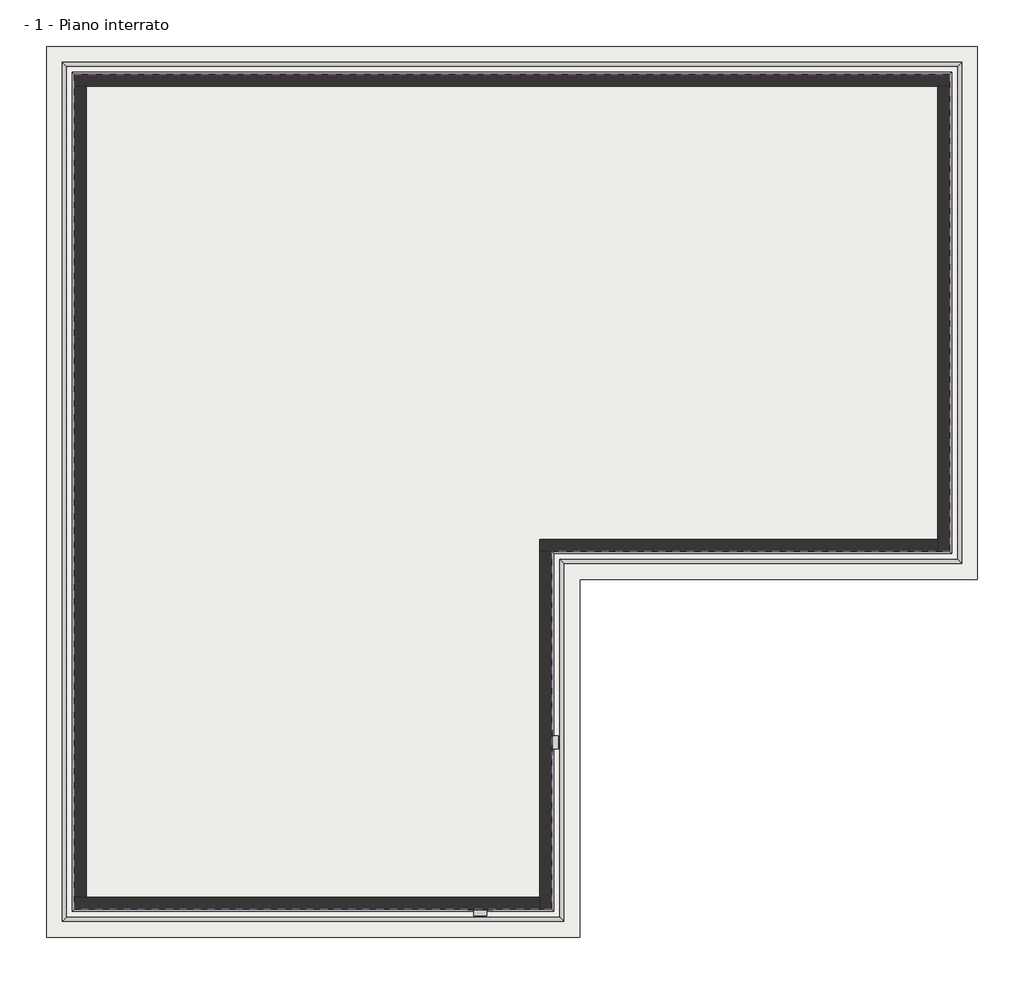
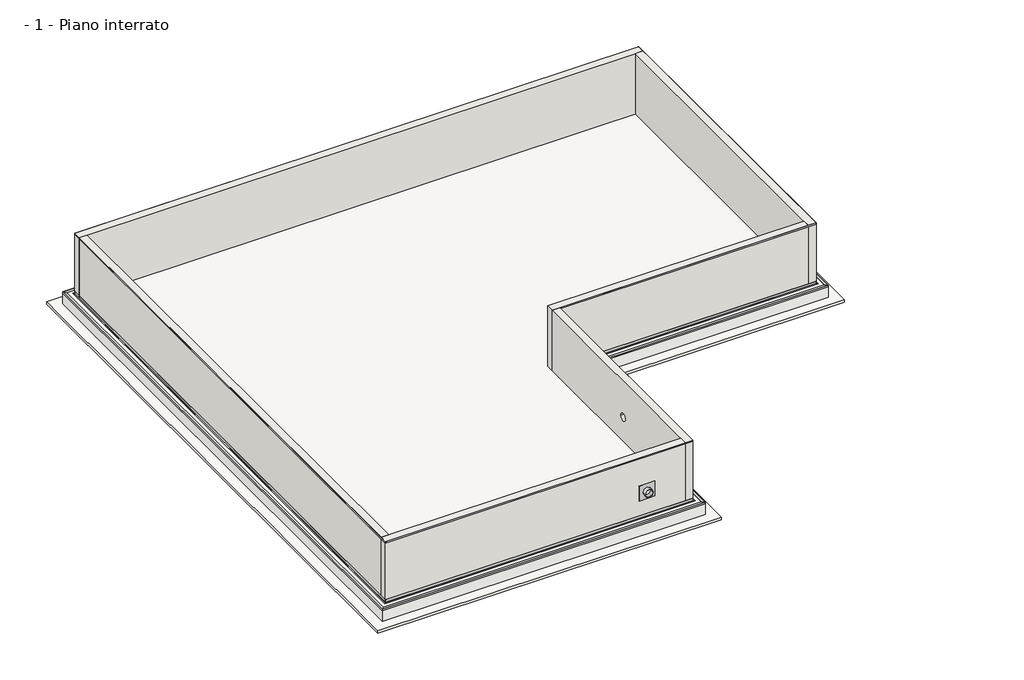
# One storey: 7 proxies, 6 walls, 2 slabs.
"""IFC4 building model written with IfcOpenShell, lengths in millimetres."""

from ifc_helpers import new_model, si_unit, frame, origin, place, context, project, spatial, polyline, circle_curve, outline, extrude, faceted_brep, transform, mapped, element, save
from ifc_brep_helpers import plane_surface, revolved_surface, advanced_brep
from components import generic_models_91e2fdae

model = new_model("IFC4")

# Units and contexts
model_context = context("Model", 3, world=origin())
ifc_project = project(units=[si_unit("LENGTHUNIT", "METRE", prefix="MILLI")], contexts=[model_context])

# Site, building, storey
site = spatial("IfcSite", under=ifc_project)
building = spatial("IfcBuilding", under=site)
storey = spatial("IfcBuildingStorey", under=building, Name="- 1 - Piano interrato", Elevation=-2500.0)

# Proxies
placement = place(None, origin())
element("IfcBuildingElementProxy", 1, Name="AMPHIBIA VOLTECO PRESSURE LINE", ObjectType="AMPHIBIA VOLTECO PRESSURE LINE", at=placement, inside=storey, context=model_context, shape_type="SweptSolid", body=[
    extrude(outline(polyline([(-7818.7815655, -10110.7549823), (-7819.7815655, -10111.7549823), (-7819.7815655, 10890.2450177), (-7818.7815655, 10889.2450177), (-7818.7815655, -10110.7549823)])), frame((0.0, 0.0, -50.0), z_axis=(0.0, 0.0, 1.0), x_axis=(1.0, 0.0, 0.0)), (0.0, 0.0, 1.0), 50.0),
    extrude(outline(polyline([(4181.2184345, -10110.7549823), (4182.2184345, -10111.7549823), (-7819.7815655, -10111.7549823), (-7818.7815655, -10110.7549823), (4181.2184345, -10110.7549823)])), frame((0.0, 0.0, -50.0), z_axis=(0.0, 0.0, 1.0), x_axis=(1.0, 0.0, 0.0)), (0.0, 0.0, 1.0), 50.0),
    extrude(outline(polyline([(4181.2184345, -1110.7549823), (4182.2184345, -1111.7549823), (4182.2184345, -10111.7549823), (4181.2184345, -10110.7549823), (4181.2184345, -1110.7549823)])), frame((0.0, 0.0, -50.0), z_axis=(0.0, 0.0, 1.0), x_axis=(1.0, 0.0, 0.0)), (0.0, 0.0, 1.0), 50.0),
    extrude(outline(polyline([(14181.2184345, -1110.7549823), (14182.2184345, -1111.7549823), (4182.2184345, -1111.7549823), (4181.2184345, -1110.7549823), (14181.2184345, -1110.7549823)])), frame((0.0, 0.0, -50.0), z_axis=(0.0, 0.0, 1.0), x_axis=(1.0, 0.0, 0.0)), (0.0, 0.0, 1.0), 50.0),
    extrude(outline(polyline([(14181.2184345, 10889.2450177), (14182.2184345, 10890.2450177), (14182.2184345, -1111.7549823), (14181.2184345, -1110.7549823), (14181.2184345, 10889.2450177)])), frame((0.0, 0.0, -50.0), z_axis=(0.0, 0.0, 1.0), x_axis=(1.0, 0.0, 0.0)), (0.0, 0.0, 1.0), 50.0),
    extrude(outline(polyline([(-7818.7815655, 10889.2450177), (-7819.7815655, 10890.2450177), (14182.2184345, 10890.2450177), (14181.2184345, 10889.2450177), (-7818.7815655, 10889.2450177)])), frame((0.0, 0.0, -50.0), z_axis=(0.0, 0.0, 1.0), x_axis=(1.0, 0.0, 0.0)), (0.0, 0.0, 1.0), 50.0),
])
element("IfcBuildingElementProxy", 2, Name="AMPHIBIA CORNER 90° VOLTECO", ObjectType="AMPHIBIA CORNER 90° VOLTECO", at=placement, inside=storey, context=model_context, shape_type="Brep", body=[
    faceted_brep([(14482.2184345, 11190.2450177, -2550.0), (14481.2184345, 11189.2450177, -2550.0), (-8118.7815655, 11189.2450177, -2550.0), (-8119.7815655, 11190.2450177, -2550.0), (14482.2184345, 11190.2450177, -2499.0), (-8119.7815655, 11190.2450177, -2499.0), (14381.2184345, 11089.2450177, -2499.0), (-8018.7815655, 11089.2450177, -2499.0), (14381.2184345, 11089.2450177, -2500.0), (-8018.7815655, 11089.2450177, -2500.0), (14481.2184345, 11189.2450177, -2500.0), (-8118.7815655, 11189.2450177, -2500.0), (-8118.7815655, -10410.7549823, -2550.0), (-8119.7815655, -10411.7549823, -2550.0), (-8119.7815655, -10411.7549823, -2499.0), (-8018.7815655, -10310.7549823, -2499.0), (-8018.7815655, -10310.7549823, -2500.0), (-8118.7815655, -10410.7549823, -2500.0), (4481.2184345, -10410.7549823, -2550.0), (4482.2184345, -10411.7549823, -2550.0), (4482.2184345, -10411.7549823, -2499.0), (4381.2184345, -10310.7549823, -2499.0), (4381.2184345, -10310.7549823, -2500.0), (4481.2184345, -10410.7549823, -2500.0), (4481.2184345, -1410.7549823, -2550.0), (4482.2184345, -1411.7549823, -2550.0), (4482.2184345, -1411.7549823, -2499.0), (4381.2184345, -1310.7549823, -2499.0), (4381.2184345, -1310.7549823, -2500.0), (4481.2184345, -1410.7549823, -2500.0), (14481.2184345, -1410.7549823, -2550.0), (14482.2184345, -1411.7549823, -2550.0), (14482.2184345, -1411.7549823, -2499.0), (14381.2184345, -1310.7549823, -2499.0), (14381.2184345, -1310.7549823, -2500.0), (14481.2184345, -1410.7549823, -2500.0)], [[[0, 1, 2, 3]], [[4, 0, 3, 5]], [[6, 4, 5, 7]], [[8, 6, 7, 9]], [[10, 8, 9, 11]], [[1, 10, 11, 2]], [[3, 2, 12, 13]], [[5, 3, 13, 14]], [[7, 5, 14, 15]], [[9, 7, 15, 16]], [[11, 9, 16, 17]], [[2, 11, 17, 12]], [[13, 12, 18, 19]], [[14, 13, 19, 20]], [[15, 14, 20, 21]], [[16, 15, 21, 22]], [[17, 16, 22, 23]], [[12, 17, 23, 18]], [[19, 18, 24, 25]], [[20, 19, 25, 26]], [[21, 20, 26, 27]], [[22, 21, 27, 28]], [[23, 22, 28, 29]], [[18, 23, 29, 24]], [[25, 24, 30, 31]], [[26, 25, 31, 32]], [[27, 26, 32, 33]], [[28, 27, 33, 34]], [[29, 28, 34, 35]], [[24, 29, 35, 30]], [[1, 0, 31, 30]], [[0, 4, 32, 31]], [[4, 6, 33, 32]], [[6, 8, 34, 33]], [[8, 10, 35, 34]], [[10, 1, 30, 35]]]),
])
element("IfcBuildingElementProxy", 3, Name="AKTI-VO 201 VOLTECO", ObjectType="AKTI-VO 201 VOLTECO", at=placement, inside=storey, context=model_context, shape_type="SweptSolid", body=[
    extrude(outline(polyline([(14205.1184345, 10913.1450177), (14206.1184345, 10914.1450177), (14206.1184345, -1135.6549823), (14205.1184345, -1134.6549823), (14205.1184345, 10913.1450177)])), frame((0.0, 0.0, -2500.0), z_axis=(0.0, 0.0, 1.0), x_axis=(1.0, 0.0, 0.0)), (0.0, 0.0, 1.0), 1.0),
    extrude(outline(polyline([(14205.1184345, -1134.6549823), (14206.1184345, -1135.6549823), (4206.1184345, -1135.6549823), (4205.1184345, -1134.6549823), (14205.1184345, -1134.6549823)])), frame((0.0, 0.0, -2500.0), z_axis=(0.0, 0.0, 1.0), x_axis=(1.0, 0.0, 0.0)), (0.0, 0.0, 1.0), 1.0),
    extrude(outline(polyline([(4205.1184345, -1134.6549823), (4206.1184345, -1135.6549823), (4206.1184345, -10135.6549823), (4205.1184345, -10134.6549823), (4205.1184345, -1134.6549823)])), frame((0.0, 0.0, -2500.0), z_axis=(0.0, 0.0, 1.0), x_axis=(1.0, 0.0, 0.0)), (0.0, 0.0, 1.0), 1.0),
    extrude(outline(polyline([(4205.1184345, -10134.6549823), (4206.1184345, -10135.6549823), (-7843.6815655, -10135.6549823), (-7842.6815655, -10134.6549823), (4205.1184345, -10134.6549823)])), frame((0.0, 0.0, -2500.0), z_axis=(0.0, 0.0, 1.0), x_axis=(1.0, 0.0, 0.0)), (0.0, 0.0, 1.0), 1.0),
    extrude(outline(polyline([(-7842.6815655, 10913.1450177), (-7843.6815655, 10914.1450177), (14206.1184345, 10914.1450177), (14205.1184345, 10913.1450177), (-7842.6815655, 10913.1450177)])), frame((0.0, 0.0, -2500.0), z_axis=(0.0, 0.0, 1.0), x_axis=(1.0, 0.0, 0.0)), (0.0, 0.0, 1.0), 1.0),
    extrude(outline(polyline([(-7842.6815655, -10134.6549823), (-7843.6815655, -10135.6549823), (-7843.6815655, 10914.1450177), (-7842.6815655, 10913.1450177), (-7842.6815655, -10134.6549823)])), frame((0.0, 0.0, -2500.0), z_axis=(0.0, 0.0, 1.0), x_axis=(1.0, 0.0, 0.0)), (0.0, 0.0, 1.0), 1.0),
])
element("IfcBuildingElementProxy", 4, Name="AMPHIBIA CORNER 270° VOLTECO", ObjectType="AMPHIBIA CORNER 270° VOLTECO", at=placement, inside=storey, context=model_context, shape_type="Brep", body=[
    faceted_brep([(14232.2184345, 10940.2450177, -2498.0), (14232.2184345, 10940.2450177, -2499.0), (14181.2184345, 10889.2450177, -2499.0), (14181.2184345, 10889.2450177, -2398.0), (14182.2184345, 10890.2450177, -2398.0), (14182.2184345, 10890.2450177, -2498.0), (14232.2184345, -1161.7549823, -2498.0), (14182.2184345, -1111.7549823, -2498.0), (14182.2184345, -1111.7549823, -2398.0), (14181.2184345, -1110.7549823, -2398.0), (14181.2184345, -1110.7549823, -2499.0), (14232.2184345, -1161.7549823, -2499.0)], [[[0, 1, 2, 3, 4, 5]], [[6, 7, 8, 9, 10, 11]], [[1, 0, 6, 11]], [[2, 1, 11, 10]], [[3, 2, 10, 9]], [[4, 3, 9, 8]], [[5, 4, 8, 7]], [[0, 5, 7, 6]]]),
    faceted_brep([(-7869.7815655, 10940.2450177, -2498.0), (-7869.7815655, 10940.2450177, -2499.0), (-7818.7815655, 10889.2450177, -2499.0), (-7818.7815655, 10889.2450177, -2398.0), (-7819.7815655, 10890.2450177, -2398.0), (-7819.7815655, 10890.2450177, -2498.0), (14232.2184345, 10940.2450177, -2498.0), (14182.2184345, 10890.2450177, -2498.0), (14182.2184345, 10890.2450177, -2398.0), (14181.2184345, 10889.2450177, -2398.0), (14181.2184345, 10889.2450177, -2499.0), (14232.2184345, 10940.2450177, -2499.0)], [[[0, 1, 2, 3, 4, 5]], [[6, 7, 8, 9, 10, 11]], [[1, 0, 6, 11]], [[2, 1, 11, 10]], [[3, 2, 10, 9]], [[4, 3, 9, 8]], [[5, 4, 8, 7]], [[0, 5, 7, 6]]]),
    faceted_brep([(-7869.7815655, -10161.7549823, -2498.0), (-7869.7815655, -10161.7549823, -2499.0), (-7818.7815655, -10110.7549823, -2499.0), (-7818.7815655, -10110.7549823, -2398.0), (-7819.7815655, -10111.7549823, -2398.0), (-7819.7815655, -10111.7549823, -2498.0), (-7869.7815655, 10940.2450177, -2498.0), (-7819.7815655, 10890.2450177, -2498.0), (-7819.7815655, 10890.2450177, -2398.0), (-7818.7815655, 10889.2450177, -2398.0), (-7818.7815655, 10889.2450177, -2499.0), (-7869.7815655, 10940.2450177, -2499.0)], [[[0, 1, 2, 3, 4, 5]], [[6, 7, 8, 9, 10, 11]], [[1, 0, 6, 11]], [[2, 1, 11, 10]], [[3, 2, 10, 9]], [[4, 3, 9, 8]], [[5, 4, 8, 7]], [[0, 5, 7, 6]]]),
    faceted_brep([(4232.2184345, -10161.7549823, -2498.0), (4232.2184345, -10161.7549823, -2499.0), (4181.2184345, -10110.7549823, -2499.0), (4181.2184345, -10110.7549823, -2398.0), (4182.2184345, -10111.7549823, -2398.0), (4182.2184345, -10111.7549823, -2498.0), (-7869.7815655, -10161.7549823, -2498.0), (-7819.7815655, -10111.7549823, -2498.0), (-7819.7815655, -10111.7549823, -2398.0), (-7818.7815655, -10110.7549823, -2398.0), (-7818.7815655, -10110.7549823, -2499.0), (-7869.7815655, -10161.7549823, -2499.0)], [[[0, 1, 2, 3, 4, 5]], [[6, 7, 8, 9, 10, 11]], [[1, 0, 6, 11]], [[2, 1, 11, 10]], [[3, 2, 10, 9]], [[4, 3, 9, 8]], [[5, 4, 8, 7]], [[0, 5, 7, 6]]]),
    faceted_brep([(4232.2184345, -1161.7549823, -2498.0), (4232.2184345, -1161.7549823, -2499.0), (4181.2184345, -1110.7549823, -2499.0), (4181.2184345, -1110.7549823, -2398.0), (4182.2184345, -1111.7549823, -2398.0), (4182.2184345, -1111.7549823, -2498.0), (4232.2184345, -10161.7549823, -2498.0), (4182.2184345, -10111.7549823, -2498.0), (4182.2184345, -10111.7549823, -2398.0), (4181.2184345, -10110.7549823, -2398.0), (4181.2184345, -10110.7549823, -2499.0), (4232.2184345, -10161.7549823, -2499.0)], [[[0, 1, 2, 3, 4, 5]], [[6, 7, 8, 9, 10, 11]], [[1, 0, 6, 11]], [[2, 1, 11, 10]], [[3, 2, 10, 9]], [[4, 3, 9, 8]], [[5, 4, 8, 7]], [[0, 5, 7, 6]]]),
    faceted_brep([(14232.2184345, -1161.7549823, -2498.0), (14232.2184345, -1161.7549823, -2499.0), (14181.2184345, -1110.7549823, -2499.0), (14181.2184345, -1110.7549823, -2398.0), (14182.2184345, -1111.7549823, -2398.0), (14182.2184345, -1111.7549823, -2498.0), (4232.2184345, -1161.7549823, -2498.0), (4182.2184345, -1111.7549823, -2498.0), (4182.2184345, -1111.7549823, -2398.0), (4181.2184345, -1110.7549823, -2398.0), (4181.2184345, -1110.7549823, -2499.0), (4232.2184345, -1161.7549823, -2499.0)], [[[0, 1, 2, 3, 4, 5]], [[6, 7, 8, 9, 10, 11]], [[1, 0, 6, 11]], [[2, 1, 11, 10]], [[3, 2, 10, 9]], [[4, 3, 9, 8]], [[5, 4, 8, 7]], [[0, 5, 7, 6]]]),
])
element("IfcBuildingElementProxy", 5, Name="WT CONSTRUCTION VOLTECO", ObjectType="WT CONSTRUCTION VOLTECO", at=placement, inside=storey, context=model_context, shape_type="SweptSolid", body=[
    extrude(outline(polyline([(14018.7184345, 10726.7450177), (14043.7184345, 10751.7450177), (14043.7184345, -973.2549823), (14018.7184345, -948.2549823), (14018.7184345, 10726.7450177)])), frame((0.0, 0.0, -2500.0), z_axis=(0.0, 0.0, 1.0), x_axis=(1.0, 0.0, 0.0)), (0.0, 0.0, 1.0), 15.0),
    extrude(outline(polyline([(14018.7184345, -948.2549823), (14043.7184345, -973.2549823), (4043.7184345, -973.2549823), (4018.7184345, -948.2549823), (14018.7184345, -948.2549823)])), frame((0.0, 0.0, -2500.0), z_axis=(0.0, 0.0, 1.0), x_axis=(1.0, 0.0, 0.0)), (0.0, 0.0, 1.0), 15.0),
    extrude(outline(polyline([(4018.7184345, -948.2549823), (4043.7184345, -973.2549823), (4043.7184345, -9973.2549823), (4018.7184345, -9948.2549823), (4018.7184345, -948.2549823)])), frame((0.0, 0.0, -2500.0), z_axis=(0.0, 0.0, 1.0), x_axis=(1.0, 0.0, 0.0)), (0.0, 0.0, 1.0), 15.0),
    extrude(outline(polyline([(4018.7184345, -9948.2549823), (4043.7184345, -9973.2549823), (-7681.2815655, -9973.2549823), (-7656.2815655, -9948.2549823), (4018.7184345, -9948.2549823)])), frame((0.0, 0.0, -2500.0), z_axis=(0.0, 0.0, 1.0), x_axis=(1.0, 0.0, 0.0)), (0.0, 0.0, 1.0), 15.0),
    extrude(outline(polyline([(-7656.2815655, -9948.2549823), (-7681.2815655, -9973.2549823), (-7681.2815655, 10751.7450177), (-7656.2815655, 10726.7450177), (-7656.2815655, -9948.2549823)])), frame((0.0, 0.0, -2500.0), z_axis=(0.0, 0.0, 1.0), x_axis=(1.0, 0.0, 0.0)), (0.0, 0.0, 1.0), 15.0),
    extrude(outline(polyline([(-7656.2815655, 10726.7450177), (-7681.2815655, 10751.7450177), (14043.7184345, 10751.7450177), (14018.7184345, 10726.7450177), (-7656.2815655, 10726.7450177)])), frame((0.0, 0.0, -2500.0), z_axis=(0.0, 0.0, 1.0), x_axis=(1.0, 0.0, 0.0)), (0.0, 0.0, 1.0), 15.0),
])
generic_models_shape = generic_models_91e2fdae(model_context)
element("IfcBuildingElementProxy", 6, Name="ITA-VOLTECO Amphibia Tubo : ITA-VOLTECO Amphibia Tubo", ObjectType="ITA-VOLTECO Amphibia Tubo : ITA-VOLTECO Amphibia Tubo", at=placement, inside=storey, context=model_context, shape_type="MappedRepresentation", body=[
    mapped(generic_models_shape, transform((4181.2184345, -5910.7549823, -1500.3520841), x_axis=(0.0, 1.0, 0.0), y_axis=(0.0, 0.0, 1.0), z_axis=(1.0, 0.0, 0.0))),
])
element("IfcBuildingElementProxy", 7, Name="ITA-VOLTECO Amphibia Tubo : ITA-VOLTECO Amphibia Tubo", ObjectType="ITA-VOLTECO Amphibia Tubo : ITA-VOLTECO Amphibia Tubo", at=placement, inside=storey, context=model_context, shape_type="MappedRepresentation", body=[
    mapped(generic_models_shape, transform((2381.2184345, -10110.7549823, -1471.2981482), x_axis=(1.0, 0.0, 0.0), y_axis=(0.0, 0.0, 1.0), z_axis=(0.0, -1.0, 0.0))),
])

# Slabs
element("IfcSlab", 8, ObjectType="Magrone - 10 cm", at=placement, inside=storey, context=model_context, shape_type="SweptSolid", body=[
    extrude(outline(polyline([(14881.2184345, 11589.2450177), (14881.2184345, -1810.7549823), (4881.2184345, -1810.7549823), (4881.2184345, -10810.7549823), (-8518.7815655, -10810.7549823), (-8518.7815655, 11589.2450177), (14881.2184345, 11589.2450177)])), frame((0.0, 0.0, -3100.0), z_axis=(0.0, 0.0, 1.0), x_axis=(1.0, 0.0, 0.0)), (0.0, 0.0, 1.0), 100.0),
])
element("IfcSlab", 9, ObjectType="Platea - 50 cm", at=placement, inside=storey, context=model_context, shape_type="Brep", body=[
    faceted_brep([(14481.2184345, 11189.2450177, -3000.0), (14481.2184345, -1410.7549823, -3000.0), (4481.2184345, -1410.7549823, -3000.0), (4481.2184345, -10410.7549823, -3000.0), (-8118.7815655, -10410.7549823, -3000.0), (-8118.7815655, 11189.2450177, -3000.0), (14481.2184345, 11189.2450177, -2500.0), (-8118.7815655, 11189.2450177, -2500.0), (-8118.7815655, -10410.7549823, -2500.0), (4481.2184345, -10410.7549823, -2500.0), (4481.2184345, -1410.7549823, -2500.0), (14481.2184345, -1410.7549823, -2500.0), (14481.2184345, 11189.2450177, -2550.0), (14481.2184345, -1410.7549823, -2550.0), (4481.2184345, -1410.7549823, -2550.0), (4481.2184345, -10410.7549823, -2550.0), (-8118.7815655, -10410.7549823, -2550.0), (-8118.7815655, 11189.2450177, -2550.0)], [[[0, 1, 2, 3, 4, 5]], [[6, 7, 8, 9, 10, 11]], [[1, 0, 12, 6, 11, 13]], [[2, 1, 13, 11, 10, 14]], [[3, 2, 14, 10, 9, 15]], [[4, 3, 15, 9, 8, 16]], [[5, 4, 16, 8, 7, 17]], [[0, 5, 17, 7, 6, 12]]]),
])

# Walls
element("IfcWall", 10, ObjectType="Fondazione - 30 cm", at=placement, inside=storey, context=model_context, shape_type="Brep", body=[
    faceted_brep([(14181.2184345, 10589.2450177, 0.0), (13881.2184345, 10589.2450177, 0.0), (-7518.7815655, 10589.2450177, 0.0), (-7818.7815655, 10589.2450177, 0.0), (-7818.7815655, 10589.2450177, -50.0), (-7818.7815655, 10589.2450177, -2398.0), (-7818.7815655, 10589.2450177, -2499.0), (-7818.7815655, 10589.2450177, -2500.0), (-7681.2815655, 10589.2450177, -2500.0), (-7681.2815655, 10589.2450177, -2485.0), (-7656.2815655, 10589.2450177, -2485.0), (-7656.2815655, 10589.2450177, -2500.0), (-7518.7815655, 10589.2450177, -2500.0), (13881.2184345, 10589.2450177, -2500.0), (14018.7184345, 10589.2450177, -2500.0), (14018.7184345, 10589.2450177, -2485.0), (14043.7184345, 10589.2450177, -2485.0), (14043.7184345, 10589.2450177, -2500.0), (14181.2184345, 10589.2450177, -2500.0), (14181.2184345, 10589.2450177, -2499.0), (14181.2184345, 10589.2450177, -2398.0), (14181.2184345, 10589.2450177, -50.0), (-7818.7815655, 10889.2450177, 0.0), (14181.2184345, 10889.2450177, 0.0), (14181.2184345, 10889.2450177, -50.0), (14181.2184345, 10889.2450177, -2398.0), (14181.2184345, 10889.2450177, -2499.0), (14181.2184345, 10889.2450177, -2500.0), (-7818.7815655, 10889.2450177, -2500.0), (-7818.7815655, 10889.2450177, -2499.0), (-7818.7815655, 10889.2450177, -2398.0), (-7818.7815655, 10889.2450177, -50.0), (14043.7184345, 10751.7450177, -2500.0), (-7681.2815655, 10751.7450177, -2500.0), (-7656.2815655, 10726.7450177, -2500.0), (14018.7184345, 10726.7450177, -2500.0), (-7681.2815655, 10751.7450177, -2485.0), (14043.7184345, 10751.7450177, -2485.0), (-7656.2815655, 10726.7450177, -2485.0), (14018.7184345, 10726.7450177, -2485.0)], [[[0, 1, 2, 3, 4, 5, 6, 7, 8, 9, 10, 11, 12, 13, 14, 15, 16, 17, 18, 19, 20, 21]], [[22, 23, 24, 25, 26, 27, 28, 29, 30, 31]], [[3, 2, 1, 0, 23, 22]], [[23, 0, 21, 20, 19, 18, 27, 26, 25, 24]], [[3, 22, 31, 30, 29, 28, 7, 6, 5, 4]], [[7, 28, 27, 18, 17, 32, 33, 8]], [[14, 13, 12, 11, 34, 35]], [[33, 36, 9, 8]], [[37, 36, 33, 32]], [[37, 32, 17, 16]], [[38, 34, 11, 10]], [[39, 38, 10, 9, 36, 37, 16, 15]], [[34, 38, 39, 35]], [[35, 39, 15, 14]]]),
])
element("IfcWall", 11, ObjectType="Fondazione - 30 cm", at=placement, inside=storey, context=model_context, shape_type="Brep", body=[
    faceted_brep([(13881.2184345, -1110.7549823, 0.0), (13881.2184345, -810.7549823, 0.0), (13881.2184345, 10589.2450177, 0.0), (13881.2184345, 10589.2450177, -2500.0), (13881.2184345, -810.7549823, -2500.0), (13881.2184345, -948.2549823, -2500.0), (13881.2184345, -948.2549823, -2485.0), (13881.2184345, -973.2549823, -2485.0), (13881.2184345, -973.2549823, -2500.0), (13881.2184345, -1110.7549823, -2500.0), (13881.2184345, -1110.7549823, -2499.0), (13881.2184345, -1110.7549823, -2398.0), (13881.2184345, -1110.7549823, -50.0), (14181.2184345, 10589.2450177, 0.0), (14181.2184345, -1110.7549823, 0.0), (14181.2184345, -1110.7549823, -50.0), (14181.2184345, -1110.7549823, -2398.0), (14181.2184345, -1110.7549823, -2499.0), (14181.2184345, -1110.7549823, -2500.0), (14181.2184345, 10589.2450177, -2500.0), (14181.2184345, 10589.2450177, -2499.0), (14181.2184345, 10589.2450177, -2398.0), (14181.2184345, 10589.2450177, -50.0), (14043.7184345, 10589.2450177, -2500.0), (14043.7184345, 10589.2450177, -2485.0), (14018.7184345, 10589.2450177, -2485.0), (14018.7184345, 10589.2450177, -2500.0), (14043.7184345, -973.2549823, -2500.0), (14018.7184345, -948.2549823, -2500.0), (14043.7184345, -973.2549823, -2485.0), (14018.7184345, -948.2549823, -2485.0)], [[[0, 1, 2, 3, 4, 5, 6, 7, 8, 9, 10, 11, 12]], [[13, 14, 15, 16, 17, 18, 19, 20, 21, 22]], [[2, 1, 0, 14, 13]], [[3, 2, 13, 22, 21, 20, 19, 23, 24, 25, 26]], [[14, 0, 12, 11, 10, 9, 18, 17, 16, 15]], [[19, 18, 9, 8, 27, 23]], [[5, 4, 3, 26, 28]], [[27, 29, 24, 23]], [[29, 27, 8, 7]], [[24, 29, 7, 6, 30, 25]], [[30, 28, 26, 25]], [[28, 30, 6, 5]]]),
])
element("IfcWall", 12, ObjectType="Fondazione - 30 cm", at=placement, inside=storey, context=model_context, shape_type="Brep", body=[
    faceted_brep([(3881.2184345, -810.7549823, 0.0), (13881.2184345, -810.7549823, 0.0), (13881.2184345, -810.7549823, -2500.0), (3881.2184345, -810.7549823, -2500.0), (3881.2184345, -1110.7549823, 0.0), (3881.2184345, -1110.7549823, -2500.0), (4018.7184345, -1110.7549823, -2500.0), (4018.7184345, -1110.7549823, -2485.0), (4043.7184345, -1110.7549823, -2485.0), (4043.7184345, -1110.7549823, -2500.0), (4181.2184345, -1110.7549823, -2500.0), (13881.2184345, -1110.7549823, -2500.0), (13881.2184345, -1110.7549823, -2499.0), (13881.2184345, -1110.7549823, -2398.0), (13881.2184345, -1110.7549823, -50.0), (13881.2184345, -1110.7549823, 0.0), (4181.2184345, -1110.7549823, 0.0), (13881.2184345, -973.2549823, -2500.0), (13881.2184345, -973.2549823, -2485.0), (13881.2184345, -948.2549823, -2485.0), (13881.2184345, -948.2549823, -2500.0), (4018.7184345, -948.2549823, -2500.0), (4043.7184345, -973.2549823, -2500.0), (4043.7184345, -973.2549823, -2485.0), (4018.7184345, -948.2549823, -2485.0)], [[[0, 1, 2, 3]], [[4, 5, 6, 7, 8, 9, 10, 11, 12, 13, 14, 15, 16]], [[1, 0, 4, 16, 15]], [[2, 1, 15, 14, 13, 12, 11, 17, 18, 19, 20]], [[0, 3, 5, 4]], [[3, 2, 20, 21, 6, 5]], [[11, 10, 9, 22, 17]], [[22, 23, 18, 17]], [[23, 22, 9, 8]], [[18, 23, 8, 7, 24, 19]], [[24, 21, 20, 19]], [[21, 24, 7, 6]]]),
])
element("IfcWall", 13, ObjectType="Fondazione - 30 cm", at=placement, inside=storey, context=model_context, shape_type="AdvancedBrep", body=[
    advanced_brep(
    [(3881.2184345, -10110.7549823, 0.0), (3881.2184345, -9810.7549823, 0.0), (3881.2184345, -1110.7549823, 0.0), (3881.2184345, -1110.7549823, -2500.0), (3881.2184345, -9810.7549823, -2500.0), (3881.2184345, -9948.2549823, -2500.0), (3881.2184345, -9948.2549823, -2485.0), (3881.2184345, -9973.2549823, -2485.0), (3881.2184345, -9973.2549823, -2500.0), (3881.2184345, -10110.7549823, -2500.0), (3881.2184345, -10110.7549823, -2499.0), (3881.2184345, -10110.7549823, -2398.0), (3881.2184345, -10110.7549823, -50.0), (3881.2184345, -6060.7549823, -1500.3520841), (3881.2184345, -5760.7549823, -1500.3520841), (4181.2184345, -1110.7549823, 0.0), (4181.2184345, -10110.7549823, 0.0), (4181.2184345, -10110.7549823, -50.0), (4181.2184345, -10110.7549823, -2398.0), (4181.2184345, -10110.7549823, -2499.0), (4181.2184345, -10110.7549823, -2500.0), (4181.2184345, -1110.7549823, -2500.0), (4181.2184345, -1110.7549823, -2499.0), (4181.2184345, -1110.7549823, -2398.0), (4181.2184345, -1110.7549823, -50.0), (4181.2184345, -5760.7549823, -1500.3520841), (4181.2184345, -6060.7549823, -1500.3520841), (4043.7184345, -1110.7549823, -2500.0), (4043.7184345, -1110.7549823, -2485.0), (4018.7184345, -1110.7549823, -2485.0), (4018.7184345, -1110.7549823, -2500.0), (4043.7184345, -9973.2549823, -2500.0), (4018.7184345, -9948.2549823, -2500.0), (4043.7184345, -9973.2549823, -2485.0), (4018.7184345, -9948.2549823, -2485.0)],
    [
        (0, 1),
        (1, 2),
        (2, 3),
        (3, 4),
        (4, 5),
        (5, 6),
        (6, 7),
        (7, 8),
        (8, 9),
        (9, 10),
        (10, 11),
        (11, 12),
        (12, 0),
        (13, 14, circle_curve(frame((3881.2184345, -5910.7549823, -1500.3520841), z_axis=(1.0, 0.0, 0.0), x_axis=(0.0, 1.0, 0.0)), 150.0)),
        (14, 13, circle_curve(frame((3881.2184345, -5910.7549823, -1500.3520841), z_axis=(1.0, 0.0, 0.0), x_axis=(0.0, 1.0, 0.0)), 150.0)),
        (15, 16),
        (16, 17),
        (17, 18),
        (18, 19),
        (19, 20),
        (20, 21),
        (21, 22),
        (22, 23),
        (23, 24),
        (24, 15),
        (25, 26, circle_curve(frame((4181.2184345, -5910.7549823, -1500.3520841), z_axis=(-1.0, 0.0, 0.0), x_axis=(0.0, 1.0, 0.0)), 150.0)),
        (26, 25, circle_curve(frame((4181.2184345, -5910.7549823, -1500.3520841), z_axis=(-1.0, 0.0, 0.0), x_axis=(0.0, 1.0, 0.0)), 150.0)),
        (0, 16),
        (15, 2),
        (21, 27),
        (27, 28),
        (28, 29),
        (29, 30),
        (30, 3),
        (9, 20),
        (8, 31),
        (31, 27),
        (30, 32),
        (32, 5),
        (13, 26),
        (25, 14),
        (31, 33),
        (33, 28),
        (7, 33),
        (6, 34),
        (34, 29),
        (34, 32),
    ],
    [
        plane_surface(frame((3881.2184345, -1110.7549823, -2500.0), z_axis=(-1.0, 0.0, 0.0), x_axis=(0.0, -1.0, 0.0))),
        plane_surface(frame((4181.2184345, -1110.7549823, -2500.0), z_axis=(1.0, 0.0, 0.0), x_axis=(0.0, 1.0, 0.0))),
        plane_surface(frame((3881.2184345, -9960.7549823, 0.0), z_axis=(0.0, 0.0, 1.0), x_axis=(1.0, 0.0, 0.0))),
        plane_surface(frame((14181.2184345, -1110.7549823, -2500.0), z_axis=(0.0, 1.0, 0.0), x_axis=(1.0, 0.0, 0.0))),
        plane_surface(frame((4181.2184345, -10110.7549823, -2500.0), z_axis=(0.0, -1.0, 0.0), x_axis=(1.0, 0.0, 0.0))),
        plane_surface(frame((14481.2184345, 10889.2450177, -2500.0), z_axis=(0.0, 0.0, -1.0), x_axis=(0.0, 1.0, 0.0))),
        revolved_surface(polyline([(4181.2184345, -5760.7549823, -1500.3520841), (3881.2184345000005, -5760.7549823, -1500.3520841)]), (1588.8547464, -5910.7549823, -1500.3520841), (1.0, 0.0, 0.0)),
        plane_surface(frame((4043.7184345, -973.2549823, -2485.0), z_axis=(-1.0, 0.0, 0.0), x_axis=(0.0, -1.0, 0.0))),
        plane_surface(frame((4043.7184345, -9973.2549823, -2485.0), z_axis=(0.0, 1.0, 0.0), x_axis=(-1.0, 0.0, 0.0))),
        plane_surface(frame((13881.2184345, -948.2549823, -2485.0), z_axis=(0.0, 0.0, -1.0), x_axis=(-1.0, 0.0, 0.0))),
        plane_surface(frame((4018.7184345, -948.2549823, -2500.0), z_axis=(1.0, 0.0, 0.0), x_axis=(0.0, -1.0, 0.0))),
        plane_surface(frame((4018.7184345, -9948.2549823, -2500.0), z_axis=(0.0, -1.0, 0.0), x_axis=(-1.0, 0.0, 0.0))),
    ],
    [
        (0, [[1, 2, 3, 4, 5, 6, 7, 8, 9, 10, 11, 12, 13], [14, 15]]),
        (1, [[16, 17, 18, 19, 20, 21, 22, 23, 24, 25], [26, 27]]),
        (2, [[-2, -1, 28, -16, 29]]),
        (3, [[-3, -29, -25, -24, -23, -22, 30, 31, 32, 33, 34]]),
        (4, [[-28, -13, -12, -11, -10, 35, -20, -19, -18, -17]]),
        (5, [[-21, -35, -9, 36, 37, -30]]),
        (5, [[-5, -4, -34, 38, 39]]),
        (6, [[40, -26, 41, -14]]),
        (6, [[-40, -15, -41, -27]]),
        (7, [[42, 43, -31, -37]]),
        (8, [[-42, -36, -8, 44]]),
        (9, [[-43, -44, -7, 45, 46, -32]]),
        (10, [[47, -38, -33, -46]]),
        (11, [[-47, -45, -6, -39]]),
    ],
),
])
element("IfcWall", 14, ObjectType="Fondazione - 30 cm", at=placement, inside=storey, context=model_context, shape_type="AdvancedBrep", body=[
    advanced_brep(
    [(-7818.7815655, -9810.7549823, 0.0), (-7518.7815655, -9810.7549823, 0.0), (3881.2184345, -9810.7549823, 0.0), (3881.2184345, -9810.7549823, -2500.0), (-7518.7815655, -9810.7549823, -2500.0), (-7656.2815655, -9810.7549823, -2500.0), (-7656.2815655, -9810.7549823, -2485.0), (-7681.2815655, -9810.7549823, -2485.0), (-7681.2815655, -9810.7549823, -2500.0), (-7818.7815655, -9810.7549823, -2500.0), (-7818.7815655, -9810.7549823, -2499.0), (-7818.7815655, -9810.7549823, -2398.0), (-7818.7815655, -9810.7549823, -50.0), (2231.2184345, -9810.7549823, -1471.2981482), (2531.2184345, -9810.7549823, -1471.2981482), (3881.2184345, -10110.7549823, 0.0), (-7818.7815655, -10110.7549823, 0.0), (-7818.7815655, -10110.7549823, -50.0), (-7818.7815655, -10110.7549823, -2398.0), (-7818.7815655, -10110.7549823, -2499.0), (-7818.7815655, -10110.7549823, -2500.0), (3881.2184345, -10110.7549823, -2500.0), (3881.2184345, -10110.7549823, -2499.0), (3881.2184345, -10110.7549823, -2398.0), (3881.2184345, -10110.7549823, -50.0), (2531.2184345, -10110.7549823, -1471.2981482), (2231.2184345, -10110.7549823, -1471.2981482), (3881.2184345, -9973.2549823, -2500.0), (3881.2184345, -9973.2549823, -2485.0), (3881.2184345, -9948.2549823, -2485.0), (3881.2184345, -9948.2549823, -2500.0), (-7681.2815655, -9973.2549823, -2500.0), (-7656.2815655, -9948.2549823, -2500.0), (-7681.2815655, -9973.2549823, -2485.0), (-7656.2815655, -9948.2549823, -2485.0)],
    [
        (0, 1),
        (1, 2),
        (2, 3),
        (3, 4),
        (4, 5),
        (5, 6),
        (6, 7),
        (7, 8),
        (8, 9),
        (9, 10),
        (10, 11),
        (11, 12),
        (12, 0),
        (13, 14, circle_curve(frame((2381.2184345, -9810.7549823, -1471.2981482), z_axis=(0.0, -1.0, 0.0), x_axis=(1.0, 0.0, 0.0)), 150.0)),
        (14, 13, circle_curve(frame((2381.2184345, -9810.7549823, -1471.2981482), z_axis=(0.0, -1.0, 0.0), x_axis=(1.0, 0.0, 0.0)), 150.0)),
        (15, 16),
        (16, 17),
        (17, 18),
        (18, 19),
        (19, 20),
        (20, 21),
        (21, 22),
        (22, 23),
        (23, 24),
        (24, 15),
        (25, 26, circle_curve(frame((2381.2184345, -10110.7549823, -1471.2981482), z_axis=(0.0, 1.0, 0.0), x_axis=(1.0, 0.0, 0.0)), 150.0)),
        (26, 25, circle_curve(frame((2381.2184345, -10110.7549823, -1471.2981482), z_axis=(0.0, 1.0, 0.0), x_axis=(1.0, 0.0, 0.0)), 150.0)),
        (0, 16),
        (15, 2),
        (21, 27),
        (27, 28),
        (28, 29),
        (29, 30),
        (30, 3),
        (9, 20),
        (8, 31),
        (31, 27),
        (30, 32),
        (32, 5),
        (13, 26),
        (25, 14),
        (31, 33),
        (33, 28),
        (7, 33),
        (6, 34),
        (34, 29),
        (34, 32),
    ],
    [
        plane_surface(frame((4181.2184345, -9810.7549823, -2500.0), z_axis=(0.0, 1.0, 0.0), x_axis=(-1.0, 0.0, 0.0))),
        plane_surface(frame((4181.2184345, -10110.7549823, -2500.0), z_axis=(0.0, -1.0, 0.0), x_axis=(1.0, 0.0, 0.0))),
        plane_surface(frame((-7668.7815655, -9810.7549823, 0.0), z_axis=(0.0, 0.0, 1.0), x_axis=(0.0, -1.0, 0.0))),
        plane_surface(frame((3881.2184345, -1110.7549823, -2500.0), z_axis=(1.0, 0.0, 0.0), x_axis=(0.0, -1.0, 0.0))),
        plane_surface(frame((-7818.7815655, -10110.7549823, -2500.0), z_axis=(-1.0, 0.0, 0.0), x_axis=(0.0, -1.0, 0.0))),
        plane_surface(frame((14481.2184345, 10889.2450177, -2500.0), z_axis=(0.0, 0.0, -1.0), x_axis=(0.0, 1.0, 0.0))),
        revolved_surface(polyline([(2531.2184345, -10110.7549823, -1471.2981482), (2531.2184345, -9810.7549823, -1471.2981482)]), (2381.2184345, -7518.3912941, -1471.2981482), (0.0, -1.0, 0.0)),
        plane_surface(frame((4043.7184345, -9973.2549823, -2485.0), z_axis=(0.0, 1.0, 0.0), x_axis=(-1.0, 0.0, 0.0))),
        plane_surface(frame((-7681.2815655, -9973.2549823, -2485.0), z_axis=(1.0, 0.0, 0.0), x_axis=(0.0, 1.0, 0.0))),
        plane_surface(frame((4018.7184345, -810.7549823, -2485.0), z_axis=(0.0, 0.0, -1.0), x_axis=(0.0, -1.0, 0.0))),
        plane_surface(frame((4018.7184345, -9948.2549823, -2500.0), z_axis=(0.0, -1.0, 0.0), x_axis=(-1.0, 0.0, 0.0))),
        plane_surface(frame((-7656.2815655, -9948.2549823, -2500.0), z_axis=(-1.0, 0.0, 0.0), x_axis=(0.0, 1.0, 0.0))),
    ],
    [
        (0, [[1, 2, 3, 4, 5, 6, 7, 8, 9, 10, 11, 12, 13], [14, 15]]),
        (1, [[16, 17, 18, 19, 20, 21, 22, 23, 24, 25], [26, 27]]),
        (2, [[-2, -1, 28, -16, 29]]),
        (3, [[-3, -29, -25, -24, -23, -22, 30, 31, 32, 33, 34]]),
        (4, [[-28, -13, -12, -11, -10, 35, -20, -19, -18, -17]]),
        (5, [[-21, -35, -9, 36, 37, -30]]),
        (5, [[-5, -4, -34, 38, 39]]),
        (6, [[40, -26, 41, -14]]),
        (6, [[-40, -15, -41, -27]]),
        (7, [[42, 43, -31, -37]]),
        (8, [[-42, -36, -8, 44]]),
        (9, [[-43, -44, -7, 45, 46, -32]]),
        (10, [[47, -38, -33, -46]]),
        (11, [[-47, -45, -6, -39]]),
    ],
),
])
element("IfcWall", 15, ObjectType="Fondazione - 30 cm", at=placement, inside=storey, context=model_context, shape_type="Brep", body=[
    faceted_brep([(-7518.7815655, 10589.2450177, 0.0), (-7518.7815655, -9810.7549823, 0.0), (-7518.7815655, -9810.7549823, -2500.0), (-7518.7815655, 10589.2450177, -2500.0), (-7818.7815655, -9810.7549823, 0.0), (-7818.7815655, 10589.2450177, 0.0), (-7818.7815655, 10589.2450177, -50.0), (-7818.7815655, 10589.2450177, -2398.0), (-7818.7815655, 10589.2450177, -2499.0), (-7818.7815655, 10589.2450177, -2500.0), (-7818.7815655, -9810.7549823, -2500.0), (-7818.7815655, -9810.7549823, -2499.0), (-7818.7815655, -9810.7549823, -2398.0), (-7818.7815655, -9810.7549823, -50.0), (-7656.2815655, 10589.2450177, -2500.0), (-7656.2815655, 10589.2450177, -2485.0), (-7681.2815655, 10589.2450177, -2485.0), (-7681.2815655, 10589.2450177, -2500.0), (-7681.2815655, -9810.7549823, -2500.0), (-7681.2815655, -9810.7549823, -2485.0), (-7656.2815655, -9810.7549823, -2485.0), (-7656.2815655, -9810.7549823, -2500.0)], [[[0, 1, 2, 3]], [[4, 5, 6, 7, 8, 9, 10, 11, 12, 13]], [[1, 0, 5, 4]], [[0, 3, 14, 15, 16, 17, 9, 8, 7, 6, 5]], [[2, 1, 4, 13, 12, 11, 10, 18, 19, 20, 21]], [[3, 2, 21, 14]], [[10, 9, 17, 18]], [[16, 19, 18, 17]], [[19, 16, 15, 20]], [[20, 15, 14, 21]]]),
])

save(model, "model.ifc")
